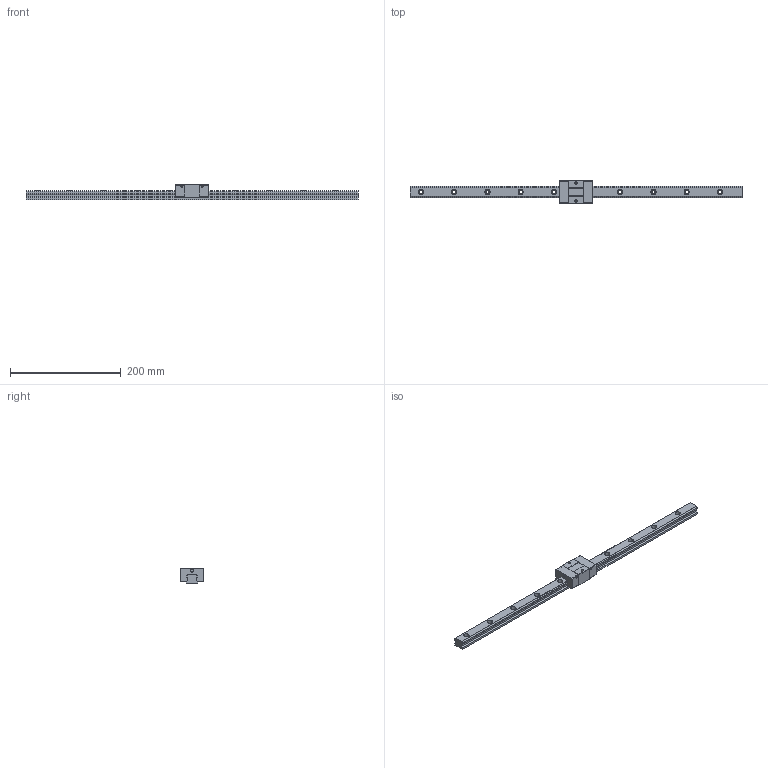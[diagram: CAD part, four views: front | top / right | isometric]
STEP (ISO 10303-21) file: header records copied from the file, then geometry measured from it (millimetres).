
FILE_DESCRIPTION (( 'STEP AP203' ), '1' );
FILE_NAME ('TRS20VS-WW.STEP', '2024-05-24T01:29:01', ( '' ), ( '' ), 'SwSTEP 2.0', 'SolidWorks 2022', '' );
FILE_SCHEMA (( 'CONFIG_CONTROL_DESIGN' ));
Length unit declared in the file: millimetre
Products named in the file (1): TRS20VS-WW
Bounding box: 600 x 42 x 28 mm (x, y, z)
Volume: 213561.4 mm3; surface area: 60831 mm2
Topology: 2 solids, 2 shells, 186 faces, 484 edges, 320 vertices
Faces by surface type: plane 94, cylinder 92
Entity records: 5863 total; most frequent: DIRECTION 1042, CARTESIAN_POINT 991, ORIENTED_EDGE 968, EDGE_CURVE 484, AXIS2_PLACEMENT_3D 371, VERTEX_POINT 320, VECTOR 300, LINE 300
